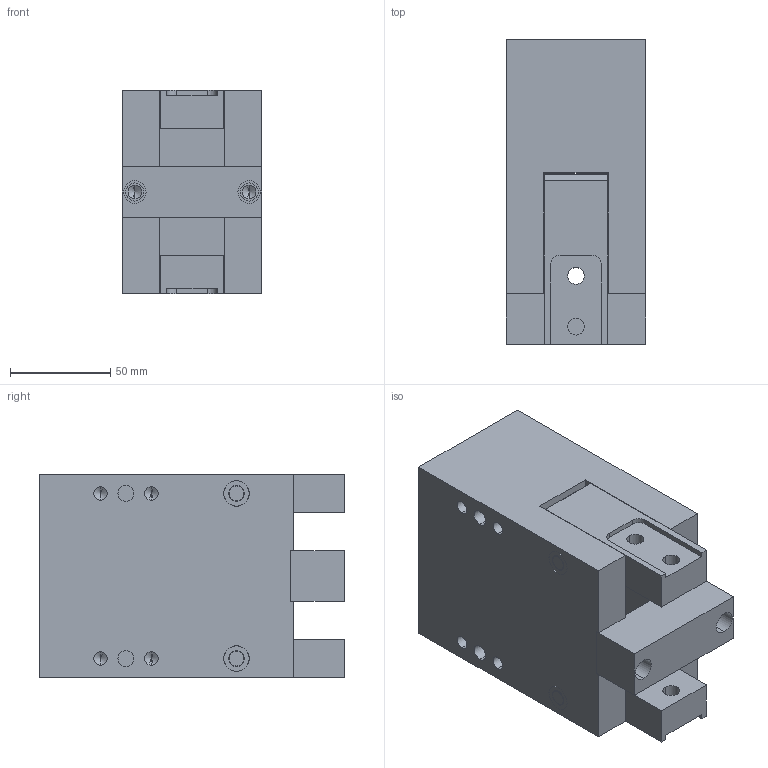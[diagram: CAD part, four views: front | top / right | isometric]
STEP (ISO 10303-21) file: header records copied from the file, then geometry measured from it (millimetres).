
FILE_DESCRIPTION (( 'STEP AP203' ), '1' );
FILE_NAME ('AGA-50 CLOSED in MM.STEP', '2014-11-03T20:47:10', ( 'setup' ), ( '' ), 'SwSTEP 2.0', 'SolidWorks 2013', '' );
FILE_SCHEMA (( 'CONFIG_CONTROL_DESIGN' ));
Length unit declared in the file: millimetre
Products named in the file (6): AGA-50 BODY; AGA-50 PIN; AGA-50 JAW; AGA-50 BUSHING; AGA-50 BLOCK; AGA-50 CLOSED in MM
Assembly tree (10 placements, depth 2):
  AGA-50 CLOSED in MM
    AGA-50 BODY
    AGA-50 PIN  x2
    AGA-50 JAW  x2
    AGA-50 BUSHING  x4
    AGA-50 BLOCK
Bounding box: 69.85 x 152.4 x 101.6 mm (x, y, z)
Volume: 814076.3 mm3; surface area: 116475.5 mm2
Topology: 10 solids, 10 shells, 199 faces, 470 edges, 294 vertices
Faces by surface type: cylinder 91, plane 76, cone 32
Entity records: 5150 total; most frequent: DIRECTION 828, CARTESIAN_POINT 738, ORIENTED_EDGE 692, EDGE_CURVE 346, AXIS2_PLACEMENT_3D 316, VERTEX_POINT 226, EDGE_LOOP 196, VECTOR 196
